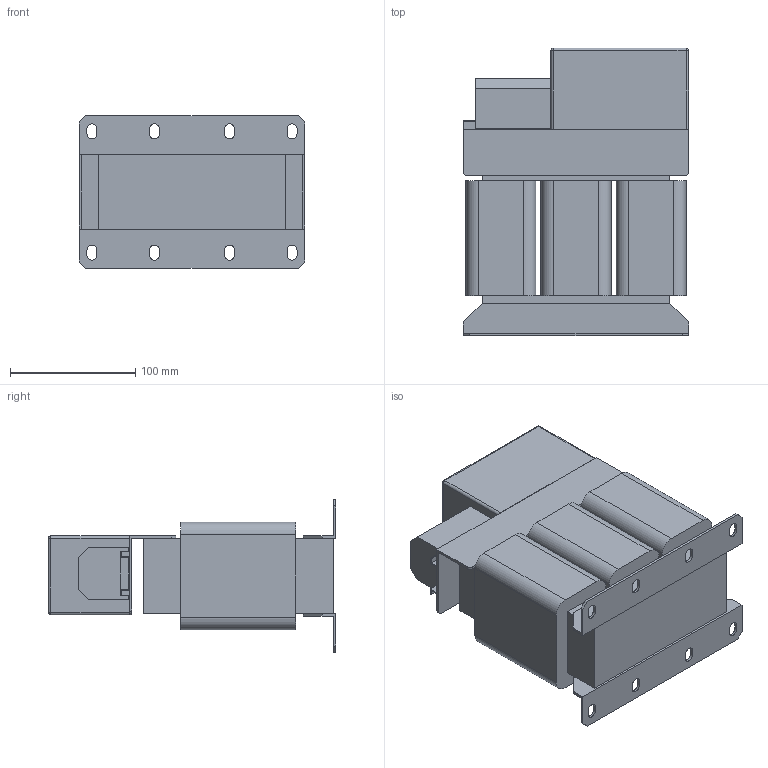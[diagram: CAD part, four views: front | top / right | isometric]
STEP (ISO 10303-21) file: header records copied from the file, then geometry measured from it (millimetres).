
FILE_DESCRIPTION(/* description */ (''),/* implementation_level */ '2;1');
FILE_NAME(/* name */ 'Sin-T4-024.stp',/* time_stamp */ '2025-03-10T16:19:30+04:00',/* author */ ('Лео'),/* organization */ (''),/* preprocessor_version */ 'ST-DEVELOPER v19.2',/* originating_system */ 'Autodesk Inventor 2024',/* authorisation */ '');
FILE_SCHEMA (('AUTOMOTIVE_DESIGN { 1 0 10303 214 3 1 1 }'));
Length unit declared in the file: millimetre
Products named in the file (1): Sin-T4-004
Bounding box: 180 x 230 x 122 mm (x, y, z)
Volume: 2453627.4 mm3; surface area: 290554.7 mm2
Topology: 9 solids, 9 shells, 152 faces, 386 edges, 252 vertices
Faces by surface type: plane 108, cylinder 40, sphere 4
Entity records: 4609 total; most frequent: CARTESIAN_POINT 791, ORIENTED_EDGE 772, DIRECTION 772, EDGE_CURVE 386, LINE 306, VECTOR 306, VERTEX_POINT 252, AXIS2_PLACEMENT_3D 233
